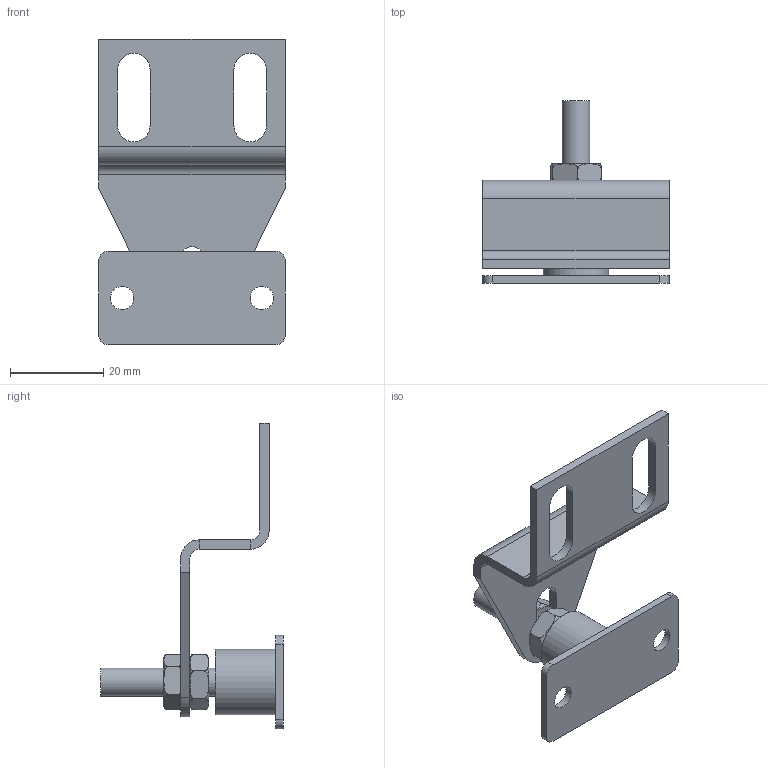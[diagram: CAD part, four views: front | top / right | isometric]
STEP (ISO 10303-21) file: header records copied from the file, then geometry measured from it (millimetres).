
FILE_DESCRIPTION(/* description */ (''),/* implementation_level */ '2;1');
FILE_NAME(/* name */ 'C:\Users\Owner\Documents\硯聰\Inv材料庫-3D新型錄\GM-磁鐵\GM-N.stp',/* time_stamp */ '2019-03-11T13:50:15+08:00',/* author */ ('Owner'),/* organization */ (''),/* preprocessor_version */ 'ST-DEVELOPER v16.1',/* originating_system */ 'Autodesk Inventor 2016',/* authorisation */ '');
FILE_SCHEMA (('AUTOMOTIVE_DESIGN { 1 0 10303 214 3 1 1 }'));
Length unit declared in the file: millimetre
Products named in the file (1): GM-N
Bounding box: 40 x 39.1 x 65.5 mm (x, y, z)
Volume: 8926.8 mm3; surface area: 9016.3 mm2
Topology: 5 solids, 5 shells, 71 faces, 170 edges, 110 vertices
Faces by surface type: plane 46, cylinder 21, torus 4
Full cylindrical faces by diameter (mm): 5 x2, 6 x1, 7 x2, 14 x1
Entity records: 2546 total; most frequent: CARTESIAN_POINT 862, DIRECTION 330, ORIENTED_EDGE 324, EDGE_CURVE 162, AXIS2_PLACEMENT_3D 120, VERTEX_POINT 112, EDGE_LOOP 96, LINE 90
